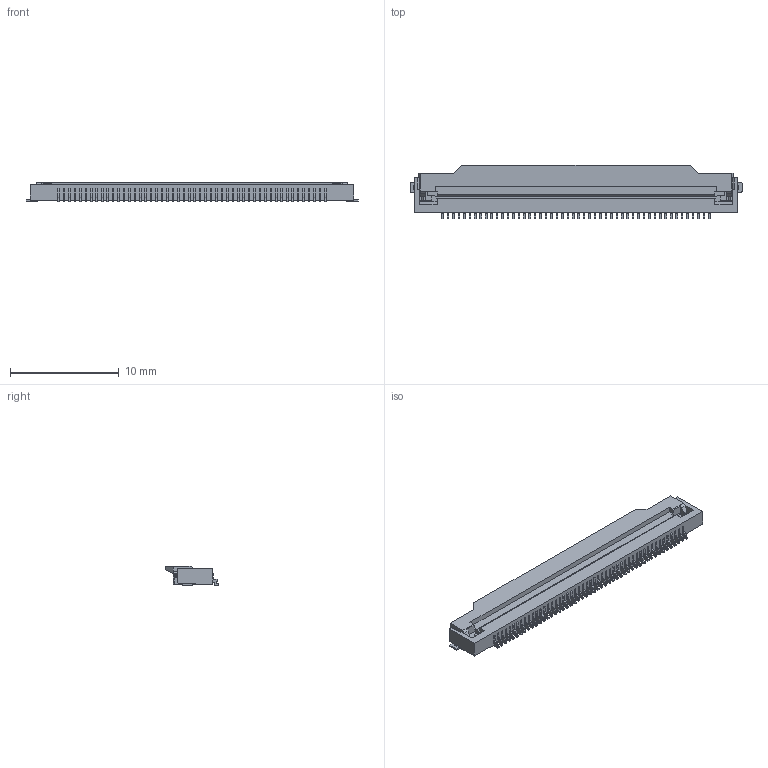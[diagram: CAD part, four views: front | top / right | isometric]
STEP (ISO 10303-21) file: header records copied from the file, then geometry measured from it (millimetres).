
FILE_DESCRIPTION (( 'STEP AP214' ), '1' );
FILE_NAME ('006806050108_607.STEP', '2023-05-19T05:32:30', ( '' ), ( '' ), 'SwSTEP 2.0', 'SolidWorks 2021', '' );
FILE_SCHEMA (( 'AUTOMOTIVE_DESIGN' ));
Length unit declared in the file: millimetre
Products named in the file (1): 006806050108_607
Bounding box: 30.5 x 4.95 x 1.75 mm (x, y, z)
Volume: 136.3 mm3; surface area: 604.1 mm2
Topology: 1 solids, 1 shells, 1131 faces, 3243 edges, 2154 vertices
Faces by surface type: plane 730, cylinder 399, cone 2
Entity records: 37027 total; most frequent: CARTESIAN_POINT 6599, ORIENTED_EDGE 6486, DIRECTION 6285, EDGE_CURVE 3243, VECTOR 2429, LINE 2429, VERTEX_POINT 2154, AXIS2_PLACEMENT_3D 1928
